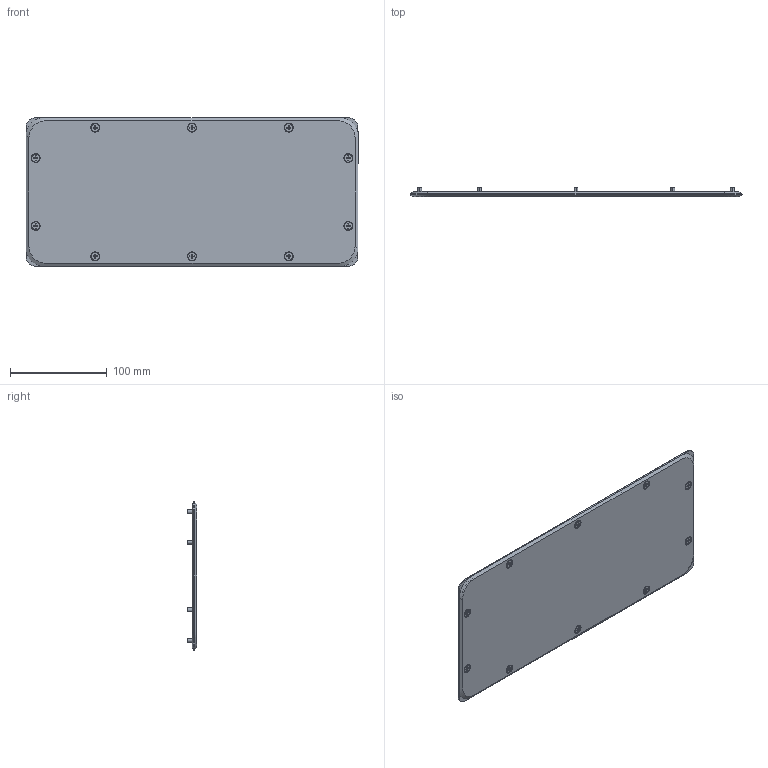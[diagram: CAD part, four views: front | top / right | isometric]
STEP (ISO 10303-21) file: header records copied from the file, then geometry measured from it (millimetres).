
FILE_DESCRIPTION (( 'STEP AP203' ), '1' );
FILE_NAME ('R5FSST01.STEP', '2024-03-22T08:53:05', ( '' ), ( '' ), 'SwSTEP 2.0', 'SolidWorks 2022', '' );
FILE_SCHEMA (( 'CONFIG_CONTROL_DESIGN' ));
Length unit declared in the file: millimetre
Products named in the file (5): RB.0048.11.00.0 CБ_-02; RB.0048.11.01.0_-02; PF 4x8 flange ST_02; R5FSST01; M4x10 DIN 7500 M PZ cl.4,8 Zinc_straight
Assembly tree (13 placements, depth 3):
  R5FSST01
    RB.0048.11.00.0 CБ_-02
      RB.0048.11.01.0_-02
      PF 4x8 flange ST_02
    M4x10 DIN 7500 M PZ cl.4,8 Zinc_straight  x10
Bounding box: 343 x 10 x 153 mm (x, y, z)
Volume: 98351.8 mm3; surface area: 126817.8 mm2
Topology: 12 solids, 12 shells, 500 faces, 1173 edges, 697 vertices
Faces by surface type: plane 220, cone 144, torus 72, cylinder 60, bspline 4
Entity records: 6868 total; most frequent: CARTESIAN_POINT 1438, DIRECTION 1107, ORIENTED_EDGE 902, AXIS2_PLACEMENT_3D 467, EDGE_CURVE 451, VERTEX_POINT 274, CIRCLE 260, EDGE_LOOP 227
